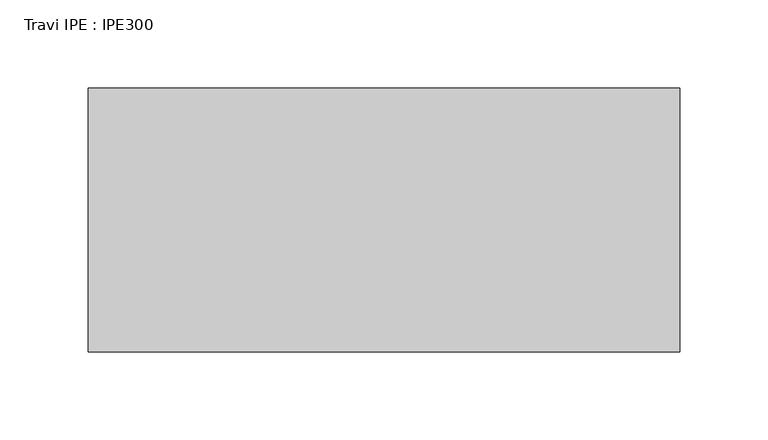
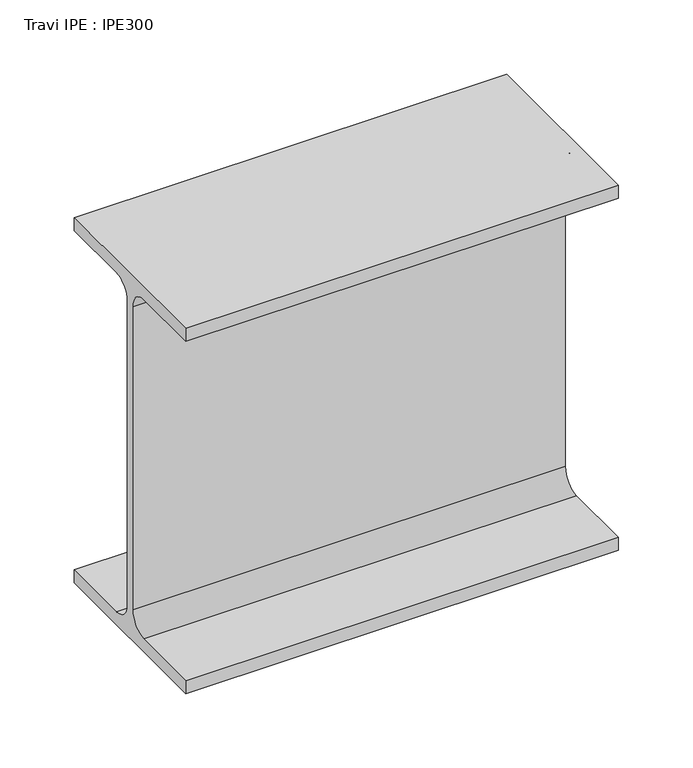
"""IFC4 building model written with IfcOpenShell, lengths in millimetres: beam geometry, Travi IPE : IPE300."""

from ifc_helpers import new_model, si_unit, point, frame, frame_2d, origin, place, context, project, spatial, polyline, circle_curve, trimmed, segment, composite_curve, outline, extrude, source, transform, mapped, element, save


def travi_ipe_ipe300_c9cc1783(model_context):
    return source(origin(), model_context, "Body", "SweptSolid", [
        extrude(outline(composite_curve([segment(polyline([(75.0, -139.3), (75.0, -150.0), (-75.0, -150.0), (-75.0, -139.3), (-18.55, -139.3)]), True, "CONTINUOUS"), segment(trimmed(circle_curve(frame_2d((-18.55, -124.3)), 15.0), [point((-18.55, -139.3))], [point((-3.55, -124.3))], True, "CARTESIAN"), True, "CONTINUOUS"), segment(polyline([(-3.55, -124.3), (-3.55, 124.3)]), True, "CONTINUOUS"), segment(trimmed(circle_curve(frame_2d((-18.55, 124.3)), 15.0), [point((-3.55, 124.3))], [point((-18.55, 139.3))], True, "CARTESIAN"), True, "CONTINUOUS"), segment(polyline([(-18.55, 139.3), (-75.0, 139.3), (-75.0, 150.0), (75.0, 150.0), (75.0, 139.3), (18.55, 139.3)]), True, "CONTINUOUS"), segment(trimmed(circle_curve(frame_2d((18.55, 124.3)), 15.0), [point((18.55, 139.3))], [point((3.55, 124.3))], True, "CARTESIAN"), True, "CONTINUOUS"), segment(polyline([(3.55, 124.3), (3.55, -124.3)]), True, "CONTINUOUS"), segment(trimmed(circle_curve(frame_2d((18.55, -124.3)), 15.0), [point((3.55, -124.3))], [point((18.55, -139.3))], True, "CARTESIAN"), True, "CONTINUOUS"), segment(polyline([(18.55, -139.3), (75.0, -139.3)]), True, "CONTINUOUS")], self_intersect=False)), frame((-211.5, 0.0, 0.0), z_axis=(1.0, 0.0, 0.0), x_axis=(0.0, 1.0, 0.0)), (0.0, 0.0, 1.0), 336.0),
    ])


if __name__ == "__main__":
    model = new_model("IFC4")
    model_context = context("Model", 3, world=origin())
    ifc_project = project(units=[si_unit("LENGTHUNIT", "METRE", prefix="MILLI")], contexts=[model_context])
    site = spatial("IfcSite", under=ifc_project)
    building = spatial("IfcBuilding", under=site)
    placement = place(None, origin())
    travi_ipe_ipe300_shape = travi_ipe_ipe300_c9cc1783(model_context)
    element("IfcBeam", 1, ObjectType="Travi IPE : IPE300", at=placement, inside=building, context=model_context, shape_type="MappedRepresentation", body=[
        mapped(travi_ipe_ipe300_shape, transform((0.0, 0.0, 0.0), x_axis=(1.0, 0.0, 0.0), y_axis=(0.0, 1.0, 0.0), z_axis=(0.0, 0.0, 1.0))),
    ])
    save(model, "model.ifc")
